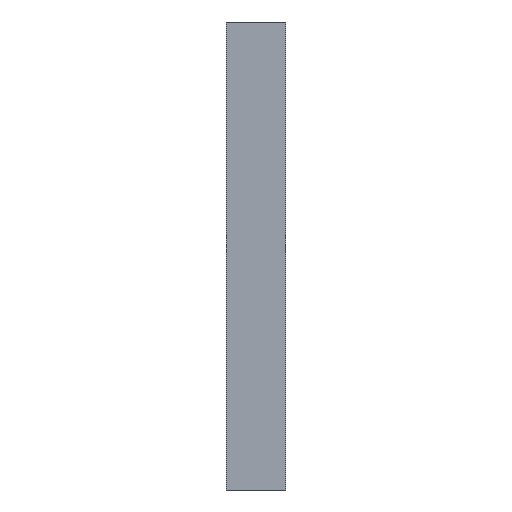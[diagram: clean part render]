
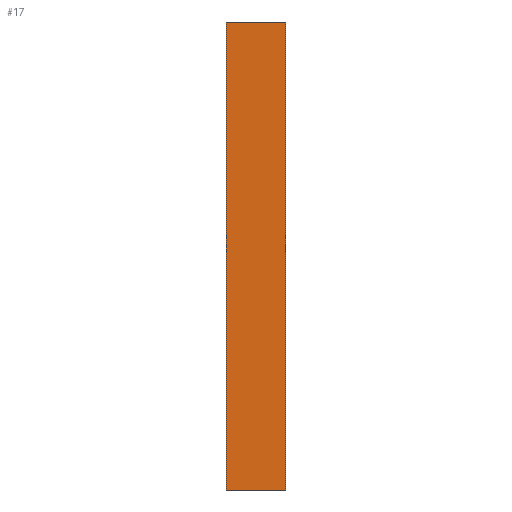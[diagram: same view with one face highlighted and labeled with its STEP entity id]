
A CAD part, left-side view. The second image highlights one B-rep face of the part: STEP entity #17.
In plain terms, the highlighted planar face has unit normal (-1, 0, 0).
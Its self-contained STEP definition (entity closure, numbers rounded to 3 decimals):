
#17 = ADVANCED_FACE('',(#18),#52,.F.);
#18 = FACE_BOUND('',#19,.F.);
#19 = EDGE_LOOP('',(#20,#30,#38,#46));
#20 = ORIENTED_EDGE('',*,*,#21,.F.);
#21 = EDGE_CURVE('',#22,#24,#26,.T.);
#22 = VERTEX_POINT('',#23);
#23 = CARTESIAN_POINT('',(-45.1,-51.,263.63));
#24 = VERTEX_POINT('',#25);
#25 = CARTESIAN_POINT('',(-45.1,-51.,318.37));
#26 = LINE('',#27,#28);
#27 = CARTESIAN_POINT('',(-45.1,-51.,263.63));
#28 = VECTOR('',#29,1.);
#29 = DIRECTION('',(0.,0.,1.));
#30 = ORIENTED_EDGE('',*,*,#31,.T.);
#31 = EDGE_CURVE('',#22,#32,#34,.T.);
#32 = VERTEX_POINT('',#33);
#33 = CARTESIAN_POINT('',(-45.1,-44.,263.63));
#34 = LINE('',#35,#36);
#35 = CARTESIAN_POINT('',(-45.1,-51.,263.63));
#36 = VECTOR('',#37,1.);
#37 = DIRECTION('',(0.,1.,0.));
#38 = ORIENTED_EDGE('',*,*,#39,.T.);
#39 = EDGE_CURVE('',#32,#40,#42,.T.);
#40 = VERTEX_POINT('',#41);
#41 = CARTESIAN_POINT('',(-45.1,-44.,318.37));
#42 = LINE('',#43,#44);
#43 = CARTESIAN_POINT('',(-45.1,-44.,263.63));
#44 = VECTOR('',#45,1.);
#45 = DIRECTION('',(0.,0.,1.));
#46 = ORIENTED_EDGE('',*,*,#47,.F.);
#47 = EDGE_CURVE('',#24,#40,#48,.T.);
#48 = LINE('',#49,#50);
#49 = CARTESIAN_POINT('',(-45.1,-51.,318.37));
#50 = VECTOR('',#51,1.);
#51 = DIRECTION('',(0.,1.,0.));
#52 = PLANE('',#53);
#53 = AXIS2_PLACEMENT_3D('',#54,#55,#56);
#54 = CARTESIAN_POINT('',(-45.1,-51.,263.63));
#55 = DIRECTION('',(1.,0.,0.));
#56 = DIRECTION('',(0.,0.,1.));
